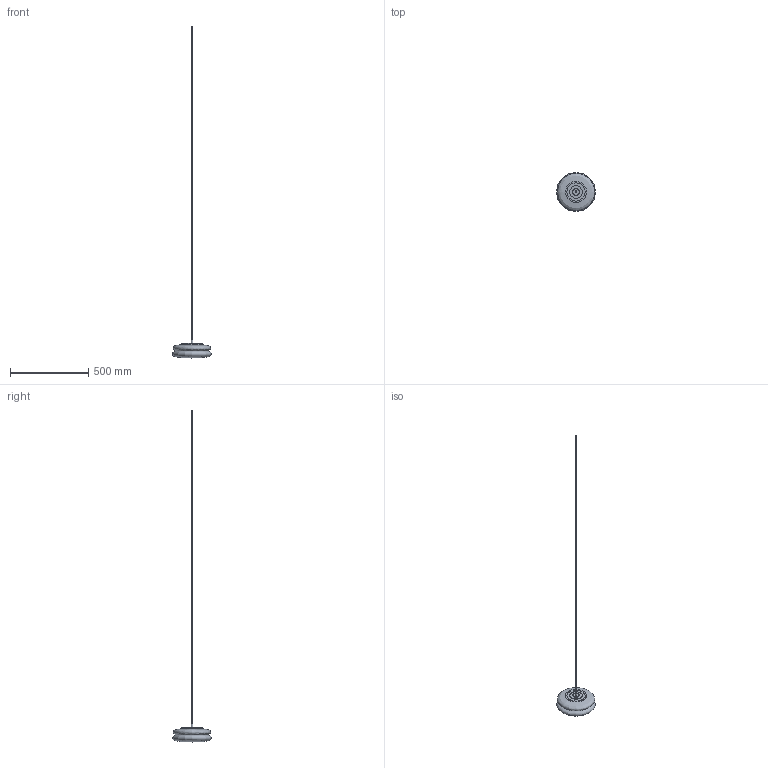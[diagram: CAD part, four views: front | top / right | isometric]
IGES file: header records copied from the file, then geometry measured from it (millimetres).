
Global section: file name: /Users/064_p/Desktop/3d data for homepage/SNOWMAN25 P.igs; native system: Rhinoceros ( Jul  7 2025 ); preprocessor: Trout Lake IGES 012 Jul  7 2025; date: 260805.081225; units: millimetre
Bounding box: 249.99 x 250 x 2119.84 mm (x, y, z)
Surface area: 197036.5 mm2 (no closed solid volume)
Topology: 0 solids, 0 shells, 13 faces, 41 edges, 30 vertices
Faces by surface type: bspline 13
